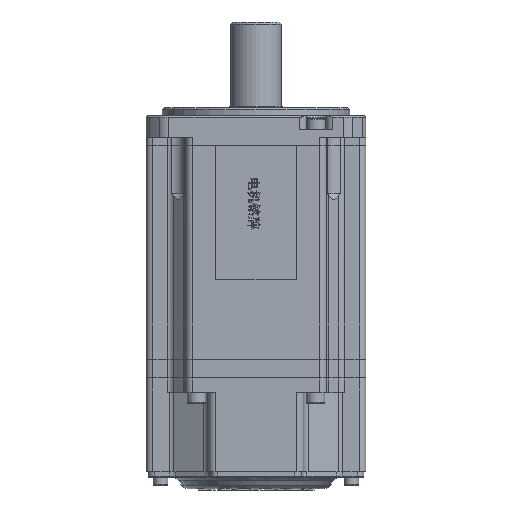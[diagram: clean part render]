
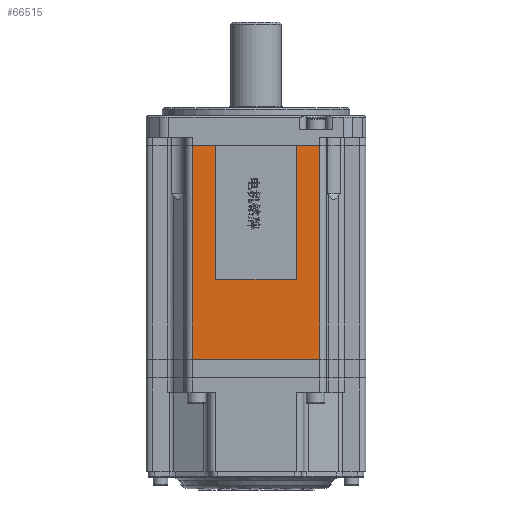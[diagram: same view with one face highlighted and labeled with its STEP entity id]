
A CAD part, front view. The second image highlights one B-rep face of the part: STEP entity #66515.
In plain terms, the highlighted planar face has unit normal (0, -1, 0).
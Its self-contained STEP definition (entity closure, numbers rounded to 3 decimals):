
#242 = VERTEX_POINT ( 'NONE', #62932 ) ;
#637 = LINE ( 'NONE', #13537, #32521 ) ;
#1000 = ORIENTED_EDGE ( 'NONE', *, *, #25981, .T. ) ;
#2685 = CARTESIAN_POINT ( 'NONE',  ( -23.75, -41., 1000. ) ) ;
#2836 = AXIS2_PLACEMENT_3D ( 'NONE', #2685, #79986, #10321 ) ;
#4915 = DIRECTION ( 'NONE',  ( -1., 0., 0. ) ) ;
#9171 = DIRECTION ( 'NONE',  ( 1., 0., 0. ) ) ;
#9506 = VERTEX_POINT ( 'NONE', #68253 ) ;
#10321 = DIRECTION ( 'NONE',  ( 0., 0., 1. ) ) ;
#11190 = ORIENTED_EDGE ( 'NONE', *, *, #19381, .F. ) ;
#13537 = CARTESIAN_POINT ( 'NONE',  ( -15., -41., 29.7 ) ) ;
#16231 = CARTESIAN_POINT ( 'NONE',  ( -23.75, -41., 1000. ) ) ;
#19381 = EDGE_CURVE ( 'NONE', #9506, #88319, #77384, .T. ) ;
#20947 = CARTESIAN_POINT ( 'NONE',  ( -23.75, -41., 0. ) ) ;
#20988 = VERTEX_POINT ( 'NONE', #69658 ) ;
#22447 = EDGE_CURVE ( 'NONE', #88319, #33049, #62037, .T. ) ;
#23162 = FACE_OUTER_BOUND ( 'NONE', #78965, .T. ) ;
#24166 = CARTESIAN_POINT ( 'NONE',  ( -198.803, -41., 79.7 ) ) ;
#25819 = VERTEX_POINT ( 'NONE', #43840 ) ;
#25981 = EDGE_CURVE ( 'NONE', #20988, #33049, #57198, .T. ) ;
#27656 = CARTESIAN_POINT ( 'NONE',  ( -15., -41., 29.7 ) ) ;
#28388 = CARTESIAN_POINT ( 'NONE',  ( -23.75, -41., 0. ) ) ;
#31040 = LINE ( 'NONE', #83889, #84790 ) ;
#31511 = EDGE_CURVE ( 'NONE', #76202, #25819, #83016, .T. ) ;
#32521 = VECTOR ( 'NONE', #62102, 1000. ) ;
#33049 = VERTEX_POINT ( 'NONE', #89911 ) ;
#39485 = LINE ( 'NONE', #16231, #44936 ) ;
#40385 = VERTEX_POINT ( 'NONE', #56861 ) ;
#43840 = CARTESIAN_POINT ( 'NONE',  ( 23.75, -41., 0. ) ) ;
#44936 = VECTOR ( 'NONE', #66249, 1000. ) ;
#45209 = EDGE_CURVE ( 'NONE', #40385, #9506, #637, .T. ) ;
#48558 = CARTESIAN_POINT ( 'NONE',  ( 15., -41., 29.7 ) ) ;
#48958 = DIRECTION ( 'NONE',  ( 0., 0., -1. ) ) ;
#52227 = ORIENTED_EDGE ( 'NONE', *, *, #22447, .F. ) ;
#56431 = EDGE_CURVE ( 'NONE', #40385, #242, #84215, .T. ) ;
#56861 = CARTESIAN_POINT ( 'NONE',  ( -15., -41., 79.7 ) ) ;
#57075 = EDGE_CURVE ( 'NONE', #242, #76202, #39485, .T. ) ;
#57198 = LINE ( 'NONE', #24166, #69221 ) ;
#57796 = VECTOR ( 'NONE', #72193, 1000. ) ;
#59759 = PLANE ( 'NONE',  #2836 ) ;
#62037 = LINE ( 'NONE', #85091, #71826 ) ;
#62102 = DIRECTION ( 'NONE',  ( 0., 0., -1. ) ) ;
#62932 = CARTESIAN_POINT ( 'NONE',  ( -23.75, -41., 79.7 ) ) ;
#63191 = ORIENTED_EDGE ( 'NONE', *, *, #87765, .F. ) ;
#65195 = ORIENTED_EDGE ( 'NONE', *, *, #56431, .T. ) ;
#66249 = DIRECTION ( 'NONE',  ( 0., 0., -1. ) ) ;
#66515 = ADVANCED_FACE ( 'NONE', ( #23162 ), #59759, .F. ) ;
#68253 = CARTESIAN_POINT ( 'NONE',  ( -15., -41., 29.7 ) ) ;
#69113 = ORIENTED_EDGE ( 'NONE', *, *, #57075, .T. ) ;
#69221 = VECTOR ( 'NONE', #73198, 1000. ) ;
#69658 = CARTESIAN_POINT ( 'NONE',  ( 23.75, -41., 79.7 ) ) ;
#71296 = DIRECTION ( 'NONE',  ( 0., 0., 1. ) ) ;
#71826 = VECTOR ( 'NONE', #71296, 1000. ) ;
#72193 = DIRECTION ( 'NONE',  ( 1., 0., 0. ) ) ;
#73198 = DIRECTION ( 'NONE',  ( -1., 0., 0. ) ) ;
#74340 = VECTOR ( 'NONE', #4915, 1000. ) ;
#76202 = VERTEX_POINT ( 'NONE', #20947 ) ;
#77384 = LINE ( 'NONE', #27656, #80531 ) ;
#78836 = ORIENTED_EDGE ( 'NONE', *, *, #31511, .T. ) ;
#78965 = EDGE_LOOP ( 'NONE', ( #1000, #52227, #11190, #81738, #65195, #69113, #78836, #63191 ) ) ;
#79986 = DIRECTION ( 'NONE',  ( 0., 1., 0. ) ) ;
#80531 = VECTOR ( 'NONE', #9171, 1000. ) ;
#81738 = ORIENTED_EDGE ( 'NONE', *, *, #45209, .F. ) ;
#83016 = LINE ( 'NONE', #28388, #57796 ) ;
#83116 = CARTESIAN_POINT ( 'NONE',  ( -198.803, -41., 79.7 ) ) ;
#83889 = CARTESIAN_POINT ( 'NONE',  ( 23.75, -41., 1000. ) ) ;
#84215 = LINE ( 'NONE', #83116, #74340 ) ;
#84790 = VECTOR ( 'NONE', #48958, 1000. ) ;
#85091 = CARTESIAN_POINT ( 'NONE',  ( 15., -41., 29.7 ) ) ;
#87765 = EDGE_CURVE ( 'NONE', #20988, #25819, #31040, .T. ) ;
#88319 = VERTEX_POINT ( 'NONE', #48558 ) ;
#89911 = CARTESIAN_POINT ( 'NONE',  ( 15., -41., 79.7 ) ) ;
